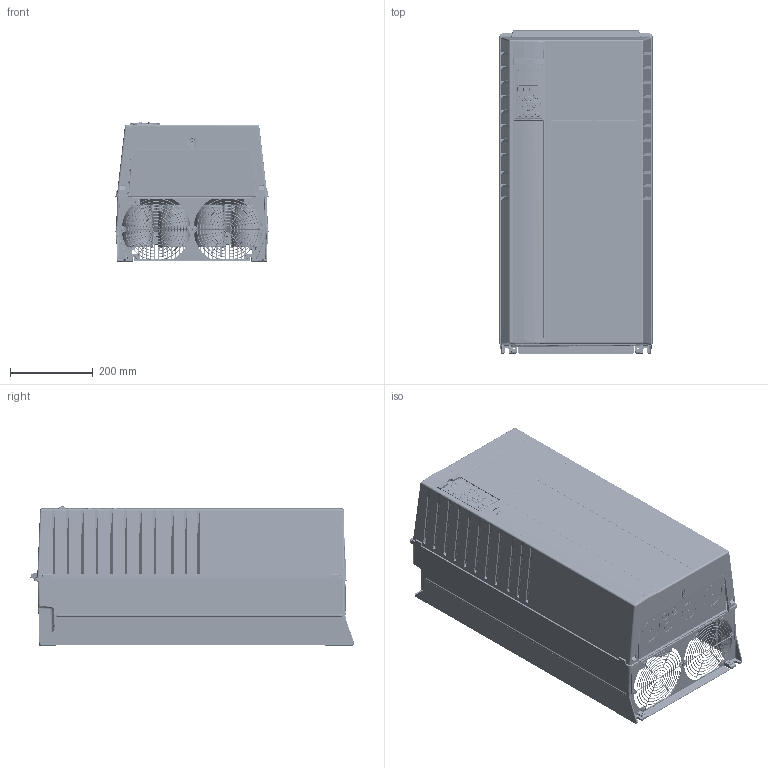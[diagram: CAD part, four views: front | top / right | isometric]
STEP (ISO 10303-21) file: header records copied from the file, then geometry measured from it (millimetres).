
FILE_DESCRIPTION((''),'2;1');
FILE_NAME('DANFOSS-FC100-C2-IP21','2011-10-17T',('cstephenkumar'),('Be-Atch INC. 1993'),'PRO/ENGINEER BY PARAMETRIC TECHNOLOGY CORPORATION, 2009360','PRO/ENGINEER BY PARAMETRIC TECHNOLOGY CORPORATION, 2009360','');
FILE_SCHEMA(('AUTOMOTIVE_DESIGN { 1 0 10303 214 1 1 1 1 }'));
Length unit declared in the file: millimetre
Products named in the file (1): DANFOSS-FC100-C2-IP21
Bounding box: 369.82 x 780.17 x 336.09 mm (x, y, z)
Volume: 47958880.5 mm3; surface area: 4928212.1 mm2
Topology: 2 solids, 12 shells, 7301 faces, 18920 edges, 11569 vertices
Faces by surface type: plane 2306, cylinder 2263, bspline 1450, cone 675, torus 503, sphere 90, extrusion 14
Entity records: 296275 total; most frequent: CARTESIAN_POINT 128436, ORIENTED_EDGE 37484, DIRECTION 30716, EDGE_CURVE 18742, VERTEX_POINT 11566, AXIS2_PLACEMENT_3D 11060, VECTOR 8596, LINE 8582
